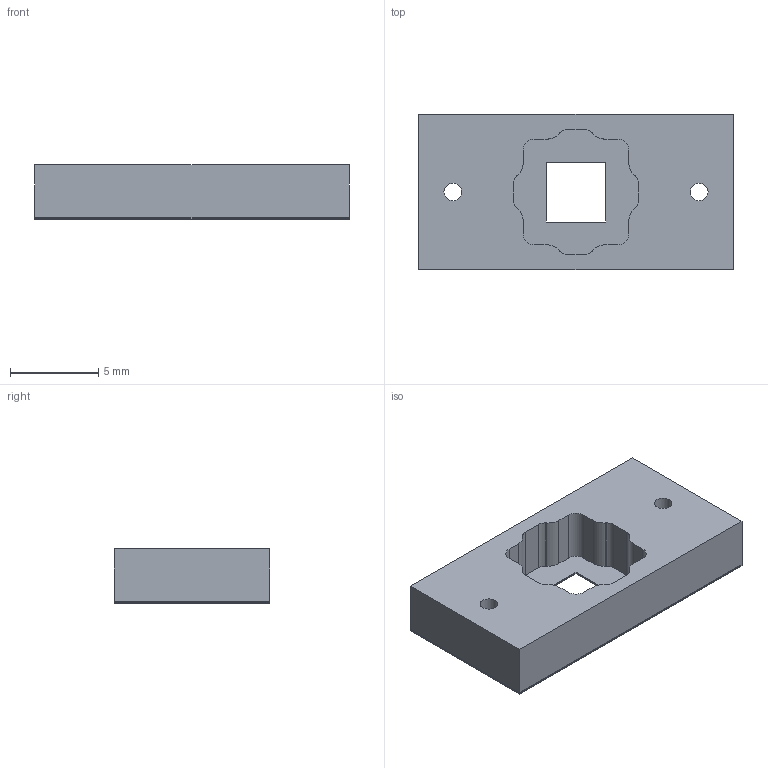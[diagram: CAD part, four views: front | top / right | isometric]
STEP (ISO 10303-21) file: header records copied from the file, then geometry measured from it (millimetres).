
FILE_DESCRIPTION(('HOOPS Exchange Step'),'2;1');
FILE_NAME('/Users/xavierjoseph/Library/Containers/com.shapr3d.shapr/Data/tmp/export/temp_export','2025-08-22T15:17:28-04:00',('xavierjoseph'),('Shapr3D Limited'),'HOOPS Exchange 2024.8','Shapr3D','Authorized');
FILE_SCHEMA( ('AP242_MANAGED_MODEL_BASED_3D_ENGINEERING_MIM_LF {1 0 10303 442 1 1 4}') );
Length unit declared in the file: millimetre
Products named in the file (5): L3 - PET (1):1; L1 - Acrylic:1; L2 - Silicone PSA:1; µSiM Component 1; root
Assembly tree (4 placements, depth 3):
  root
    µSiM Component 1
      L3 - PET (1):1
      L1 - Acrylic:1
      L2 - Silicone PSA:1
Bounding box: 17.82 x 8.82 x 3.1 mm (x, y, z)
Volume: 361.4 mm3; surface area: 1065.1 mm2
Topology: 3 solids, 3 shells, 72 faces, 206 edges, 140 vertices
Faces by surface type: plane 46, cylinder 26
Full cylindrical faces by diameter (mm): 1 x2, 1.25 x4
Entity records: 2562 total; most frequent: DIRECTION 430, CARTESIAN_POINT 428, ORIENTED_EDGE 412, EDGE_CURVE 206, VECTOR 146, LINE 146, AXIS2_PLACEMENT_3D 142, VERTEX_POINT 140
